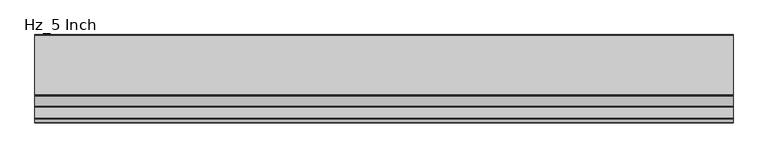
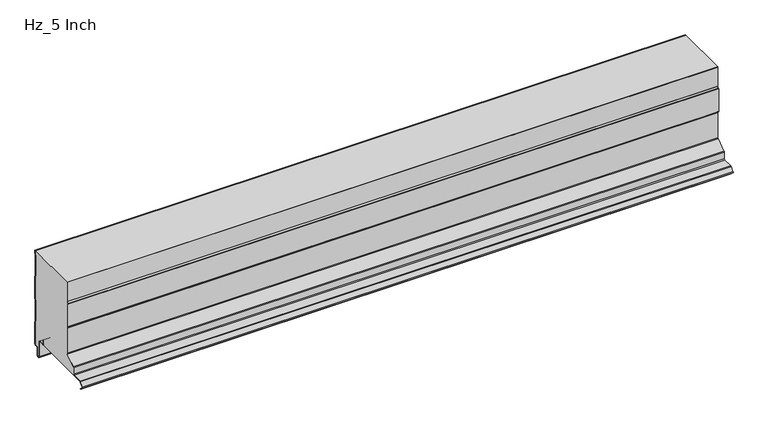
"""IFC4 building model written with IfcOpenShell, lengths in millimetres: plate geometry, KIP_R19_CP_KingSeam_Hz_Roof Panel : Hz_5 Inch."""

from ifc_helpers import new_model, si_unit, point, frame, frame_2d, origin, place, context, project, spatial, polyline, circle_curve, trimmed, segment, composite_curve, outline, extrude, source, transform, mapped, element, save


def hz_5_inch_77713b08(model_context):
    return source(origin(), model_context, "Body", "SweptSolid", [
        extrude(outline(composite_curve([segment(polyline([(-32.0, 1.9842002), (-32.0, 9.4842002), (-31.2, 9.4842002), (-31.2, 1.9842002)]), True, "CONTINUOUS"), segment(trimmed(circle_curve(frame_2d((-29.7, 1.9842002)), 1.5), [point((-31.2, 1.9842002))], [point((-29.7, 0.4842002))], True, "CARTESIAN"), True, "CONTINUOUS"), segment(polyline([(-29.7, 0.4842002), (-18.5, 0.4842002)]), True, "CONTINUOUS"), segment(trimmed(circle_curve(frame_2d((-18.5, -1.5157998)), 2.0), [point((-18.5, 0.4842002))], [point((-16.5, -1.5157998))], False, "CARTESIAN"), True, "CONTINUOUS"), segment(polyline([(-16.5, -1.5157998), (-16.5, -37.0157998)]), True, "CONTINUOUS"), segment(trimmed(circle_curve(frame_2d((-14.0, -37.0157998)), 2.5), [point((-16.5, -37.0157998))], [point((-14.0, -39.5157998))], True, "CARTESIAN"), True, "CONTINUOUS"), segment(polyline([(-14.0, -39.5157998), (-12.0, -39.5157998)]), True, "CONTINUOUS"), segment(trimmed(circle_curve(frame_2d((-12.0, -37.0157998)), 2.5), [point((-12.0, -39.5157998))], [point((-9.5, -37.0157998))], True, "CARTESIAN"), True, "CONTINUOUS"), segment(polyline([(-9.5, -37.0157998), (-9.5, -21.3)]), True, "CONTINUOUS"), segment(trimmed(circle_curve(frame_2d((-6.5, -21.3)), 3.0), [point((-9.5, -21.3))], [point((-6.5, -18.3))], False, "CARTESIAN"), True, "CONTINUOUS"), segment(polyline([(-6.5, -18.3), (-3.0, -18.3)]), True, "CONTINUOUS"), segment(trimmed(circle_curve(frame_2d((-2.8161925, -16.2437506)), 2.0644483), [point((-3.0, -18.3))], [point((-0.8, -15.8))], True, "CARTESIAN"), True, "CONTINUOUS"), segment(polyline([(-0.8, -15.8), (-0.8, 33.9573226)]), True, "CONTINUOUS"), segment(trimmed(circle_curve(frame_2d((-3.2, 33.9573226)), 2.4), [point((-0.8, 33.9573226))], [point((-0.9968123, 34.9091439))], True, "CARTESIAN"), True, "CONTINUOUS"), segment(polyline([(-0.9968123, 34.9091439), (-2.0293831, 37.2992431)]), True, "CONTINUOUS"), segment(trimmed(circle_curve(frame_2d((1.0, 38.6079974)), 3.3), [point((-2.0293831, 37.2992431))], [point((-2.3, 38.6079974))], False, "CARTESIAN"), True, "CONTINUOUS"), segment(polyline([(-2.3, 38.6079974), (-2.3, 86.9920026)]), True, "CONTINUOUS"), segment(trimmed(circle_curve(frame_2d((1.0, 86.9920026)), 3.3), [point((-2.3, 86.9920026))], [point((-2.0293831, 88.3007569))], False, "CARTESIAN"), True, "CONTINUOUS"), segment(polyline([(-2.0293831, 88.3007569), (-0.9968123, 90.6908561)]), True, "CONTINUOUS"), segment(trimmed(circle_curve(frame_2d((-3.2, 91.6426774)), 2.4), [point((-0.9968123, 90.6908561))], [point((-0.8, 91.6426774))], True, "CARTESIAN"), True, "CONTINUOUS"), segment(polyline([(-0.8, 91.6426774), (-0.8, 140.5573226)]), True, "CONTINUOUS"), segment(trimmed(circle_curve(frame_2d((-3.2, 140.5573226)), 2.4), [point((-0.8, 140.5573226))], [point((-0.9968123, 141.5091439))], True, "CARTESIAN"), True, "CONTINUOUS"), segment(polyline([(-0.9968123, 141.5091439), (-2.0293831, 143.8992431)]), True, "CONTINUOUS"), segment(trimmed(circle_curve(frame_2d((1.0, 145.2079974)), 3.3), [point((-2.0293831, 143.8992431))], [point((-2.3, 145.2079974))], False, "CARTESIAN"), True, "CONTINUOUS"), segment(polyline([(-2.3, 145.2079974), (-2.3, 193.5920026)]), True, "CONTINUOUS"), segment(trimmed(circle_curve(frame_2d((1.0, 193.5920026)), 3.3), [point((-2.3, 193.5920026))], [point((-2.0293831, 194.9007569))], False, "CARTESIAN"), True, "CONTINUOUS"), segment(polyline([(-2.0293831, 194.9007569), (-0.9968123, 197.2908561)]), True, "CONTINUOUS"), segment(trimmed(circle_curve(frame_2d((-3.2, 198.2426774)), 2.4), [point((-0.9968123, 197.2908561))], [point((-0.8, 198.2426774))], True, "CARTESIAN"), True, "CONTINUOUS"), segment(polyline([(-0.8, 198.2426774), (-0.8, 203.2), (0.0, 203.2), (0.0, 198.2426774)]), True, "CONTINUOUS"), segment(trimmed(circle_curve(frame_2d((-3.2, 198.2426774)), 3.2), [point((0.0, 198.2426774))], [point((-0.2624164, 196.9735823))], False, "CARTESIAN"), True, "CONTINUOUS"), segment(polyline([(-0.2624164, 196.9735823), (-1.2949872, 194.5834831)]), True, "CONTINUOUS"), segment(trimmed(circle_curve(frame_2d((1.0, 193.5920026)), 2.5), [point((-1.2949872, 194.5834831))], [point((-1.5, 193.5920026))], True, "CARTESIAN"), True, "CONTINUOUS"), segment(polyline([(-1.5, 193.5920026), (-1.5, 145.2079974)]), True, "CONTINUOUS"), segment(trimmed(circle_curve(frame_2d((1.0, 145.2079974)), 2.5), [point((-1.5, 145.2079974))], [point((-1.2949872, 144.2165169))], True, "CARTESIAN"), True, "CONTINUOUS"), segment(polyline([(-1.2949872, 144.2165169), (-0.2624164, 141.8264177)]), True, "CONTINUOUS"), segment(trimmed(circle_curve(frame_2d((-3.2, 140.5573226)), 3.2), [point((-0.2624164, 141.8264177))], [point((0.0, 140.5573226))], False, "CARTESIAN"), True, "CONTINUOUS"), segment(polyline([(0.0, 140.5573226), (0.0, 91.6426774)]), True, "CONTINUOUS"), segment(trimmed(circle_curve(frame_2d((-3.2, 91.6426774)), 3.2), [point((0.0, 91.6426774))], [point((-0.2624164, 90.3735823))], False, "CARTESIAN"), True, "CONTINUOUS"), segment(polyline([(-0.2624164, 90.3735823), (-1.2949872, 87.9834831)]), True, "CONTINUOUS"), segment(trimmed(circle_curve(frame_2d((1.0, 86.9920026)), 2.5), [point((-1.2949872, 87.9834831))], [point((-1.5, 86.9920026))], True, "CARTESIAN"), True, "CONTINUOUS"), segment(polyline([(-1.5, 86.9920026), (-1.5, 38.6079974)]), True, "CONTINUOUS"), segment(trimmed(circle_curve(frame_2d((1.0, 38.6079974)), 2.5), [point((-1.5, 38.6079974))], [point((-1.2949872, 37.6165169))], True, "CARTESIAN"), True, "CONTINUOUS"), segment(polyline([(-1.2949872, 37.6165169), (-0.2624164, 35.2264177)]), True, "CONTINUOUS"), segment(trimmed(circle_curve(frame_2d((-3.2, 33.9573226)), 3.2), [point((-0.2624164, 35.2264177))], [point((0.0, 33.9573226))], False, "CARTESIAN"), True, "CONTINUOUS"), segment(polyline([(0.0, 33.9573226), (0.0, -15.8)]), True, "CONTINUOUS"), segment(trimmed(circle_curve(frame_2d((-3.0, -15.8)), 3.0), [point((0.0, -15.8))], [point((-3.0, -18.8))], False, "CARTESIAN"), True, "CONTINUOUS"), segment(polyline([(-3.0, -18.8), (-6.5, -18.8)]), True, "CONTINUOUS"), segment(trimmed(circle_curve(frame_2d((-6.5, -21.3)), 2.5), [point((-6.5, -18.8))], [point((-9.0, -21.3))], True, "CARTESIAN"), True, "CONTINUOUS"), segment(polyline([(-9.0, -21.3), (-9.0, -37.0157998)]), True, "CONTINUOUS"), segment(trimmed(circle_curve(frame_2d((-12.0, -37.0157998)), 3.0), [point((-9.0, -37.0157998))], [point((-12.0, -40.0157998))], False, "CARTESIAN"), True, "CONTINUOUS"), segment(polyline([(-12.0, -40.0157998), (-14.0, -40.0157998)]), True, "CONTINUOUS"), segment(trimmed(circle_curve(frame_2d((-14.0, -37.0157998)), 3.0), [point((-14.0, -40.0157998))], [point((-17.0, -37.0157998))], False, "CARTESIAN"), True, "CONTINUOUS"), segment(polyline([(-17.0, -37.0157998), (-17.0, -1.5157998)]), True, "CONTINUOUS"), segment(trimmed(circle_curve(frame_2d((-18.5, -1.5157998)), 1.5), [point((-17.0, -1.5157998))], [point((-18.5, -0.0157998))], True, "CARTESIAN"), True, "CONTINUOUS"), segment(polyline([(-18.5, -0.0157998), (-30.0, -0.0157998)]), True, "CONTINUOUS"), segment(trimmed(circle_curve(frame_2d((-30.0, 1.9842002)), 2.0), [point((-30.0, -0.0157998))], [point((-32.0, 1.9842002))], False, "CARTESIAN"), True, "CONTINUOUS")], self_intersect=False)), frame((-723.9042608, 0.0, 0.0), z_axis=(1.0, 0.0, 0.0), x_axis=(0.0, 1.0, 0.0)), (0.0, 0.0, 1.0), 1447.8085217),
        extrude(outline(composite_curve([segment(polyline([(-124.2158807, 158.2132216), (-124.2158807, 203.2), (-0.7999994, 203.2), (-0.7999994, 198.2584774)]), True, "CONTINUOUS"), segment(trimmed(circle_curve(frame_2d((-3.1999994, 198.2584774)), 2.4), [point((-0.7999994, 198.2584774))], [point((-0.9968117, 197.306656))], False, "CARTESIAN"), True, "CONTINUOUS"), segment(polyline([(-0.9968117, 197.306656), (-2.0293826, 194.9165568)]), True, "CONTINUOUS"), segment(trimmed(circle_curve(frame_2d((1.0000006, 193.6078025)), 3.3), [point((-2.0293826, 194.9165568))], [point((-2.2999994, 193.6078025))], True, "CARTESIAN"), True, "CONTINUOUS"), segment(polyline([(-2.2999994, 193.6078025), (-2.2999994, 145.2237974)]), True, "CONTINUOUS"), segment(trimmed(circle_curve(frame_2d((1.0000006, 145.2237974)), 3.3), [point((-2.2999994, 145.2237974))], [point((-2.0293826, 143.915043))], True, "CARTESIAN"), True, "CONTINUOUS"), segment(polyline([(-2.0293826, 143.915043), (-0.9968117, 141.5249438)]), True, "CONTINUOUS"), segment(trimmed(circle_curve(frame_2d((-3.1999994, 140.5731225)), 2.4), [point((-0.9968117, 141.5249438))], [point((-0.7999994, 140.5731225))], False, "CARTESIAN"), True, "CONTINUOUS"), segment(polyline([(-0.7999994, 140.5731225), (-0.7999994, 91.6584774)]), True, "CONTINUOUS"), segment(trimmed(circle_curve(frame_2d((-3.1999994, 91.6584774)), 2.4), [point((-0.7999994, 91.6584774))], [point((-0.9968117, 90.706656))], False, "CARTESIAN"), True, "CONTINUOUS"), segment(polyline([(-0.9968117, 90.706656), (-2.0293826, 88.3165568)]), True, "CONTINUOUS"), segment(trimmed(circle_curve(frame_2d((1.0000006, 87.0078025)), 3.3), [point((-2.0293826, 88.3165568))], [point((-2.2999994, 87.0078025))], True, "CARTESIAN"), True, "CONTINUOUS"), segment(polyline([(-2.2999994, 87.0078025), (-2.2999994, 38.6237974)]), True, "CONTINUOUS"), segment(trimmed(circle_curve(frame_2d((1.0000006, 38.6237974)), 3.3), [point((-2.2999994, 38.6237974))], [point((-2.0293826, 37.315043))], True, "CARTESIAN"), True, "CONTINUOUS"), segment(polyline([(-2.0293826, 37.315043), (-0.9968117, 34.9249438)]), True, "CONTINUOUS"), segment(trimmed(circle_curve(frame_2d((-3.1999994, 33.9731225)), 2.4), [point((-0.9968117, 34.9249438))], [point((-0.7999994, 33.9731225))], False, "CARTESIAN"), True, "CONTINUOUS"), segment(polyline([(-0.7999994, 33.9731225), (-0.7999994, -15.7842001)]), True, "CONTINUOUS"), segment(trimmed(circle_curve(frame_2d((-2.8161919, -16.2279507)), 2.0644483), [point((-0.7999994, -15.7842001))], [point((-2.9999994, -18.2842001))], False, "CARTESIAN"), True, "CONTINUOUS"), segment(polyline([(-2.9999994, -18.2842001), (-6.4999994, -18.2842001)]), True, "CONTINUOUS"), segment(trimmed(circle_curve(frame_2d((-6.4999994, -21.2842001)), 3.0), [point((-6.4999994, -18.2842001))], [point((-9.4999994, -21.2842001))], True, "CARTESIAN"), True, "CONTINUOUS"), segment(polyline([(-9.4999994, -21.2842001), (-9.4999994, -36.9999998)]), True, "CONTINUOUS"), segment(trimmed(circle_curve(frame_2d((-11.9999994, -36.9999998)), 2.5), [point((-9.4999994, -36.9999998))], [point((-11.9999994, -39.4999998))], False, "CARTESIAN"), True, "CONTINUOUS"), segment(polyline([(-11.9999994, -39.4999998), (-13.9999994, -39.4999998)]), True, "CONTINUOUS"), segment(trimmed(circle_curve(frame_2d((-13.9999994, -36.9999998)), 2.5), [point((-13.9999994, -39.4999998))], [point((-16.4999994, -36.9999998))], False, "CARTESIAN"), True, "CONTINUOUS"), segment(polyline([(-16.4999994, -36.9999998), (-16.4999994, -1.4999998)]), True, "CONTINUOUS"), segment(trimmed(circle_curve(frame_2d((-18.4999994, -1.4999998)), 2.0), [point((-16.4999994, -1.4999998))], [point((-18.4999994, 0.5000002))], True, "CARTESIAN"), True, "CONTINUOUS"), segment(polyline([(-18.4999994, 0.5000002), (-29.6999994, 0.5000002)]), True, "CONTINUOUS"), segment(trimmed(circle_curve(frame_2d((-29.6999994, 2.0000002)), 1.5), [point((-29.6999994, 0.5000002))], [point((-31.1999994, 2.0000002))], False, "CARTESIAN"), True, "CONTINUOUS"), segment(polyline([(-31.1999994, 2.0000002), (-31.1999994, 9.5000002), (-31.9999994, 9.5000002), (-31.9999994, 2.0000002)]), True, "CONTINUOUS"), segment(trimmed(circle_curve(frame_2d((-29.9999994, 2.0000002)), 2.0), [point((-31.9999994, 2.0000002))], [point((-29.9999994, 2e-07))], True, "CARTESIAN"), True, "CONTINUOUS"), segment(polyline([(-29.9999994, 2e-07), (-151.3158809, 2e-07)]), True, "CONTINUOUS"), segment(trimmed(circle_curve(frame_2d((-151.3158809, 2.1)), 2.0999999), [point((-151.3158809, 2e-07))], [point((-149.2158811, 2.1))], True, "CARTESIAN"), True, "CONTINUOUS"), segment(polyline([(-149.2158811, 2.1), (-149.2158811, 17.6562866)]), True, "CONTINUOUS"), segment(trimmed(circle_curve(frame_2d((-147.2158811, 17.6562866)), 2.0), [point((-149.2158811, 17.6562866))], [point((-148.3193254, 19.3243425))], False, "CARTESIAN"), True, "CONTINUOUS"), segment(polyline([(-148.3193254, 19.3243425), (-125.3365754, 34.5277808)]), True, "CONTINUOUS"), segment(trimmed(circle_curve(frame_2d((-126.7158809, 36.6128508)), 2.5000002), [point((-125.3365754, 34.5277808))], [point((-124.2158807, 36.6128508))], True, "CARTESIAN"), True, "CONTINUOUS"), segment(polyline([(-124.2158807, 36.6128508), (-124.2158807, 95.7867785), (-126.715809, 99.2464732)]), True, "CONTINUOUS"), segment(trimmed(circle_curve(frame_2d((-125.5000002, 100.1250001)), 1.5000002), [point((-126.715809, 99.2464732))], [point((-127.0000003, 100.1250001))], False, "CARTESIAN"), True, "CONTINUOUS"), segment(polyline([(-127.0000003, 100.1250001), (-127.0000003, 153.875)]), True, "CONTINUOUS"), segment(trimmed(circle_curve(frame_2d((-125.5000001, 153.875)), 1.5000002), [point((-127.0000003, 153.875))], [point((-126.715809, 154.753527))], False, "CARTESIAN"), True, "CONTINUOUS"), segment(polyline([(-126.715809, 154.753527), (-124.2158807, 158.2132216)]), True, "CONTINUOUS")], self_intersect=False)), frame((-723.9042608, 0.0, 0.0), z_axis=(1.0, 0.0, 0.0), x_axis=(0.0, 1.0, 0.0)), (0.0, 0.0, 1.0), 1447.8085217),
        extrude(outline(composite_curve([segment(polyline([(-127.2158084, 154.7942706), (-124.715881, 158.2539642), (-124.715881, 203.2), (-124.2158803, 203.2), (-124.2158803, 158.2539652), (-126.7158083, 154.7942705)]), True, "CONTINUOUS"), segment(trimmed(circle_curve(frame_2d((-125.4999997, 153.9157438)), 1.4999999), [point((-126.7158083, 154.7942705))], [point((-126.9999996, 153.9157438))], True, "CARTESIAN"), True, "CONTINUOUS"), segment(polyline([(-126.9999996, 153.9157438), (-126.9999996, 100.1657439)]), True, "CONTINUOUS"), segment(trimmed(circle_curve(frame_2d((-125.4999999, 100.1657439)), 1.4999998), [point((-126.9999996, 100.1657439))], [point((-126.7158084, 99.2872174))], True, "CARTESIAN"), True, "CONTINUOUS"), segment(polyline([(-126.7158084, 99.2872174), (-124.2158803, 95.8275223), (-124.2158803, 36.653595)]), True, "CONTINUOUS"), segment(trimmed(circle_curve(frame_2d((-126.7158801, 36.653595)), 2.4999998), [point((-124.2158803, 36.653595))], [point((-125.3365748, 34.5685253))], False, "CARTESIAN"), True, "CONTINUOUS"), segment(polyline([(-125.3365748, 34.5685253), (-148.319325, 19.3650868)]), True, "CONTINUOUS"), segment(trimmed(circle_curve(frame_2d((-147.2158806, 17.6970309)), 2.0), [point((-148.319325, 19.3650868))], [point((-149.2158806, 17.6970309))], True, "CARTESIAN"), True, "CONTINUOUS"), segment(polyline([(-149.2158806, 17.6970309), (-149.2158806, 2.1407443)]), True, "CONTINUOUS"), segment(trimmed(circle_curve(frame_2d((-151.3158807, 2.1407443)), 2.1000001), [point((-149.2158806, 2.1407443))], [point((-151.3158807, 0.0407443))], False, "CARTESIAN"), True, "CONTINUOUS"), segment(polyline([(-151.3158807, 0.0407443), (-174.2505141, 0.0407443)]), True, "CONTINUOUS"), segment(trimmed(circle_curve(frame_2d((-174.2505141, -1.4592557)), 1.5), [point((-174.2505141, 0.0407443))], [point((-175.3111742, -0.3985956))], True, "CARTESIAN"), True, "CONTINUOUS"), segment(polyline([(-175.3111742, -0.3985956), (-182.8309954, -7.9184168)]), True, "CONTINUOUS"), segment(trimmed(circle_curve(frame_2d((-181.8012712, -8.4443275)), 1.15625), [point((-182.8309954, -7.9184168))], [point((-182.6188634, -9.2619197))], True, "CARTESIAN"), True, "CONTINUOUS"), segment(polyline([(-182.6188634, -9.2619197), (-175.2649529, -16.6158302), (-175.8306383, -17.1815156), (-183.1845488, -9.8276051)]), True, "CONTINUOUS"), segment(trimmed(circle_curve(frame_2d((-182.053178, -8.6962342)), 1.6), [point((-183.1845488, -9.8276051))], [point((-183.1845488, -7.5648634))], False, "CARTESIAN"), True, "CONTINUOUS"), segment(polyline([(-183.1845488, -7.5648634), (-175.6647276, -0.0450422)]), True, "CONTINUOUS"), segment(trimmed(circle_curve(frame_2d((-174.2505141, -1.4592557)), 2.0), [point((-175.6647276, -0.0450422))], [point((-174.2505141, 0.5407443))], False, "CARTESIAN"), True, "CONTINUOUS"), segment(polyline([(-174.2505141, 0.5407443), (-151.3158807, 0.5407443)]), True, "CONTINUOUS"), segment(trimmed(circle_curve(frame_2d((-151.3158807, 2.1407444)), 1.6000001), [point((-151.3158807, 0.5407443))], [point((-149.7158806, 2.1407444))], True, "CARTESIAN"), True, "CONTINUOUS"), segment(polyline([(-149.7158806, 2.1407444), (-149.7158806, 17.6970309)]), True, "CONTINUOUS"), segment(trimmed(circle_curve(frame_2d((-147.2158806, 17.6970309)), 2.4999999), [point((-149.7158806, 17.6970309))], [point((-148.5951861, 19.7821007))], False, "CARTESIAN"), True, "CONTINUOUS"), segment(polyline([(-148.5951861, 19.7821007), (-125.612436, 34.9855395)]), True, "CONTINUOUS"), segment(trimmed(circle_curve(frame_2d((-126.7158801, 36.653595)), 1.9999995), [point((-125.612436, 34.9855395))], [point((-124.7158806, 36.653595))], True, "CARTESIAN"), True, "CONTINUOUS"), segment(polyline([(-124.7158806, 36.653595), (-124.7158806, 95.8275223), (-127.2158088, 99.2872172)]), True, "CONTINUOUS"), segment(trimmed(circle_curve(frame_2d((-126.0000001, 100.1657439)), 1.5), [point((-127.2158088, 99.2872172))], [point((-127.4999997, 100.1667153))], False, "CARTESIAN"), True, "CONTINUOUS"), segment(polyline([(-127.4999997, 100.1667153), (-127.4999997, 153.9157439)]), True, "CONTINUOUS"), segment(trimmed(circle_curve(frame_2d((-125.9999998, 153.9157439)), 1.5), [point((-127.4999997, 153.9157439))], [point((-127.2158084, 154.7942706))], False, "CARTESIAN"), True, "CONTINUOUS")], self_intersect=False)), frame((-723.9042608, 0.0, 0.0), z_axis=(1.0, 0.0, 0.0), x_axis=(0.0, 1.0, 0.0)), (0.0, 0.0, 1.0), 1447.8085217),
    ])


if __name__ == "__main__":
    model = new_model("IFC4")
    model_context = context("Model", 3, world=origin())
    ifc_project = project(units=[si_unit("LENGTHUNIT", "METRE", prefix="MILLI")], contexts=[model_context])
    site = spatial("IfcSite", under=ifc_project)
    building = spatial("IfcBuilding", under=site)
    placement = place(None, origin())
    hz_5_inch_shape = hz_5_inch_77713b08(model_context)
    element("IfcPlate", 1, ObjectType="KIP_R19_CP_KingSeam_Hz_Roof Panel : Hz_5 Inch", at=placement, inside=building, context=model_context, shape_type="MappedRepresentation", body=[
        mapped(hz_5_inch_shape, transform((0.0, 0.0, 0.0), x_axis=(1.0, 0.0, 0.0), y_axis=(0.0, 1.0, 0.0), z_axis=(0.0, 0.0, 1.0))),
    ])
    save(model, "model.ifc")
